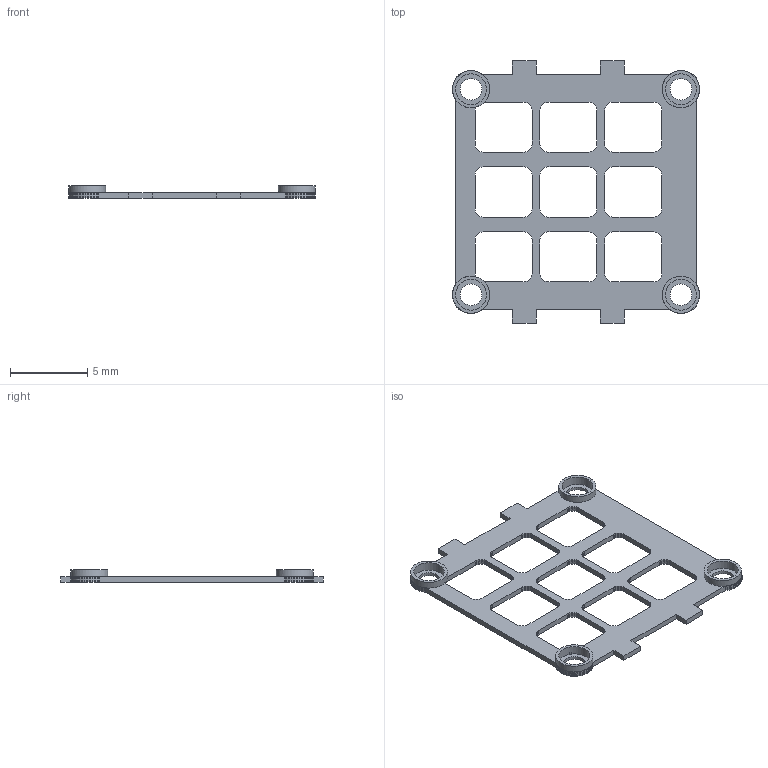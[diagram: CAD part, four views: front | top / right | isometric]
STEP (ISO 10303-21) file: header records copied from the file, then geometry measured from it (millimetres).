
FILE_DESCRIPTION(('Open CASCADE Model'),'2;1');
FILE_NAME('Open CASCADE Shape Model','2026-11-23T03:42:15',('Author'),( 'Open CASCADE'),'Open CASCADE STEP processor 7.9','Open CASCADE 7.9' ,'Unknown');
FILE_SCHEMA(('AUTOMOTIVE_DESIGN { 1 0 10303 214 1 1 1 1 }'));
Length unit declared in the file: millimetre
Products named in the file (1): Open CASCADE STEP translator 7.9 2
Bounding box: 15.98 x 17 x 0.8 mm (x, y, z)
Volume: 48.1 mm3; surface area: 362.6 mm2
Topology: 1 solids, 1 shells, 638 faces, 1656 edges, 1022 vertices
Faces by surface type: plane 626, cylinder 12
Full cylindrical faces by diameter (mm): 1.4 x4, 2 x4, 2.4 x4
Entity records: 40556 total; most frequent: CARTESIAN_POINT 6749, DIRECTION 6380, LINE 4660, VECTOR 4660, ORIENTED_EDGE 3312, PCURVE 3312, DEFINITIONAL_REPRESENTATION 3312, EDGE_CURVE 1656
